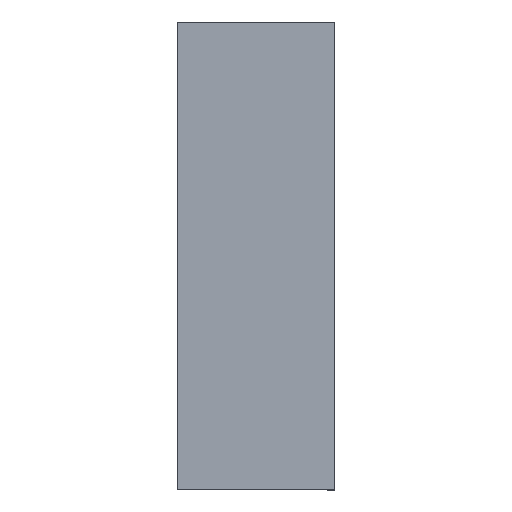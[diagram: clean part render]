
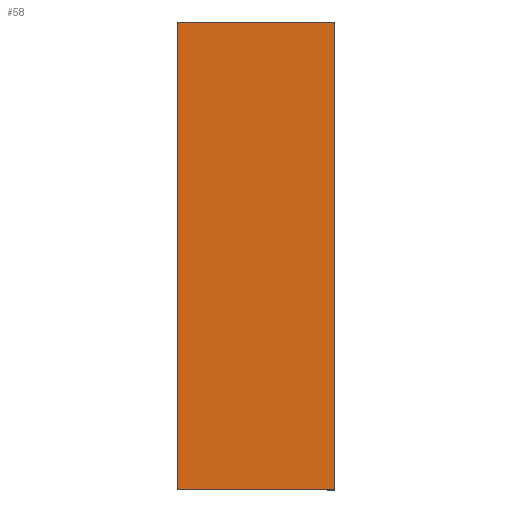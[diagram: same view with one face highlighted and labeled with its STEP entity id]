
A CAD part, top view. The second image highlights one B-rep face of the part: STEP entity #58.
In plain terms, the highlighted planar face has unit normal (0, 0, 1).
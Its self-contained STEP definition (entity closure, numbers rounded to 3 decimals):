
#6 = VERTEX_POINT ( 'NONE', #132 ) ;
#17 = DIRECTION ( 'NONE',  ( 0., 1., 0. ) ) ;
#25 = VERTEX_POINT ( 'NONE', #155 ) ;
#28 = DIRECTION ( 'NONE',  ( 0., -1., 0. ) ) ;
#29 = LINE ( 'NONE', #98, #75 ) ;
#30 = CARTESIAN_POINT ( 'NONE',  ( 0., 0., 4. ) ) ;
#44 = CARTESIAN_POINT ( 'NONE',  ( 51., -151.5, 4. ) ) ;
#46 = PLANE ( 'NONE',  #131 ) ;
#56 = VERTEX_POINT ( 'NONE', #44 ) ;
#58 = ADVANCED_FACE ( 'NONE', ( #173 ), #46, .F. ) ;
#66 = VECTOR ( 'NONE', #226, 1000. ) ;
#68 = LINE ( 'NONE', #105, #197 ) ;
#75 = VECTOR ( 'NONE', #117, 1000. ) ;
#82 = LINE ( 'NONE', #191, #66 ) ;
#84 = VERTEX_POINT ( 'NONE', #212 ) ;
#96 = DIRECTION ( 'NONE',  ( 0., 0., -1. ) ) ;
#98 = CARTESIAN_POINT ( 'NONE',  ( -51., 151.5, 4. ) ) ;
#105 = CARTESIAN_POINT ( 'NONE',  ( 51., -151.5, 4. ) ) ;
#113 = LINE ( 'NONE', #190, #181 ) ;
#117 = DIRECTION ( 'NONE',  ( -1., 0., 0. ) ) ;
#124 = EDGE_CURVE ( 'NONE', #84, #25, #29, .T. ) ;
#131 = AXIS2_PLACEMENT_3D ( 'NONE', #30, #96, #158 ) ;
#132 = CARTESIAN_POINT ( 'NONE',  ( -51., -151.5, 4. ) ) ;
#148 = ORIENTED_EDGE ( 'NONE', *, *, #151, .T. ) ;
#149 = EDGE_CURVE ( 'NONE', #25, #6, #113, .T. ) ;
#151 = EDGE_CURVE ( 'NONE', #6, #56, #82, .T. ) ;
#155 = CARTESIAN_POINT ( 'NONE',  ( -51., 151.5, 4. ) ) ;
#156 = ORIENTED_EDGE ( 'NONE', *, *, #124, .T. ) ;
#158 = DIRECTION ( 'NONE',  ( -1., 0., 0. ) ) ;
#169 = EDGE_LOOP ( 'NONE', ( #204, #156, #228, #148 ) ) ;
#173 = FACE_OUTER_BOUND ( 'NONE', #169, .T. ) ;
#179 = EDGE_CURVE ( 'NONE', #56, #84, #68, .T. ) ;
#181 = VECTOR ( 'NONE', #28, 1000. ) ;
#190 = CARTESIAN_POINT ( 'NONE',  ( -51., -151.5, 4. ) ) ;
#191 = CARTESIAN_POINT ( 'NONE',  ( -51., -151.5, 4. ) ) ;
#197 = VECTOR ( 'NONE', #17, 1000. ) ;
#204 = ORIENTED_EDGE ( 'NONE', *, *, #179, .T. ) ;
#212 = CARTESIAN_POINT ( 'NONE',  ( 51., 151.5, 4. ) ) ;
#226 = DIRECTION ( 'NONE',  ( 1., 0., 0. ) ) ;
#228 = ORIENTED_EDGE ( 'NONE', *, *, #149, .T. ) ;
